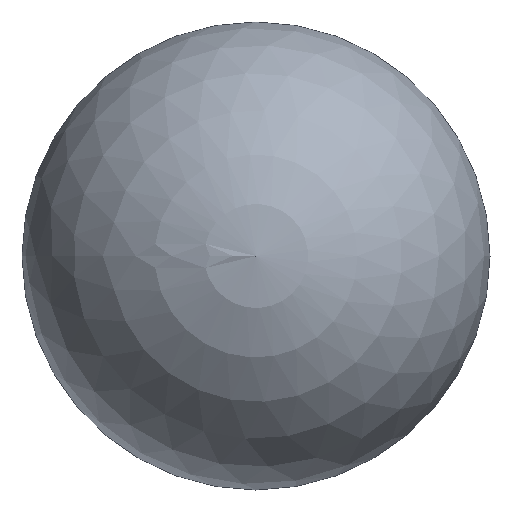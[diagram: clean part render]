
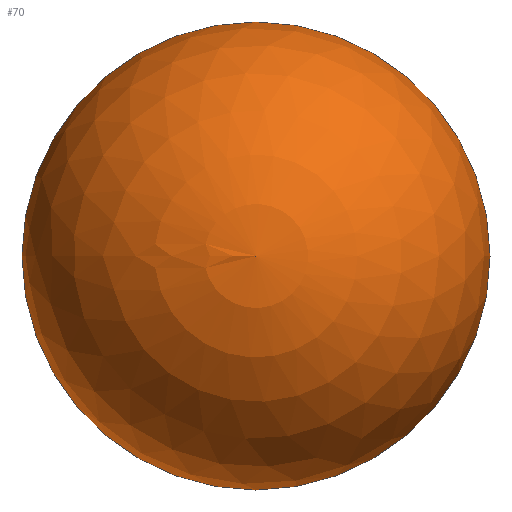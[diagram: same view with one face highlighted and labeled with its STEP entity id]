
A CAD part, left-side view. The second image highlights one B-rep face of the part: STEP entity #70.
In plain terms, the highlighted spherical face has radius 70 mm.
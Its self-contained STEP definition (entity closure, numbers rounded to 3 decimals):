
#6 = CARTESIAN_POINT ( 'NONE',  ( 0., 0., 0. ) ) ;
#7 = CARTESIAN_POINT ( 'NONE',  ( 0., 0., -140. ) ) ;
#12 = AXIS2_PLACEMENT_3D ( 'NONE', #30, #55, #59 ) ;
#13 = CARTESIAN_POINT ( 'NONE',  ( 0., 0., -70. ) ) ;
#18 = EDGE_CURVE ( 'NONE', #57, #46, #41, .T. ) ;
#24 = AXIS2_PLACEMENT_3D ( 'NONE', #33, #34, #53 ) ;
#27 = ORIENTED_EDGE ( 'NONE', *, *, #69, .T. ) ;
#30 = CARTESIAN_POINT ( 'NONE',  ( 0., 0., -70. ) ) ;
#32 = AXIS2_PLACEMENT_3D ( 'NONE', #13, #50, #68 ) ;
#33 = CARTESIAN_POINT ( 'NONE',  ( 0., 0., -70. ) ) ;
#34 = DIRECTION ( 'NONE',  ( 1., 0., 0. ) ) ;
#35 = SPHERICAL_SURFACE ( 'NONE', #32, 70. ) ;
#38 = FACE_OUTER_BOUND ( 'NONE', #62, .T. ) ;
#41 = CIRCLE ( 'NONE', #24, 70. ) ;
#42 = ORIENTED_EDGE ( 'NONE', *, *, #18, .F. ) ;
#46 = VERTEX_POINT ( 'NONE', #6 ) ;
#50 = DIRECTION ( 'NONE',  ( -1., 0., 0. ) ) ;
#53 = DIRECTION ( 'NONE',  ( 0., 0., -1. ) ) ;
#55 = DIRECTION ( 'NONE',  ( -1., 0., 0. ) ) ;
#57 = VERTEX_POINT ( 'NONE', #7 ) ;
#59 = DIRECTION ( 'NONE',  ( 0., -1., 0. ) ) ;
#61 = CIRCLE ( 'NONE', #12, 70. ) ;
#62 = EDGE_LOOP ( 'NONE', ( #42, #27 ) ) ;
#68 = DIRECTION ( 'NONE',  ( 0., 1., 0. ) ) ;
#69 = EDGE_CURVE ( 'NONE', #57, #46, #61, .T. ) ;
#70 = ADVANCED_FACE ( 'NONE', ( #38 ), #35, .T. ) ;
